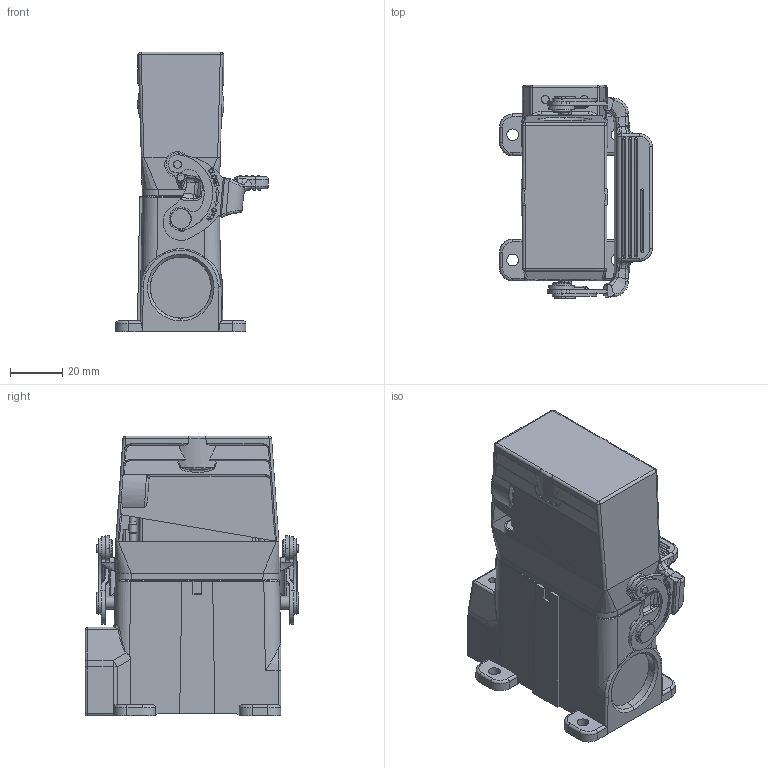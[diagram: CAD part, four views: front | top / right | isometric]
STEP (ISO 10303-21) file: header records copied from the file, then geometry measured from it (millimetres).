
FILE_DESCRIPTION(/* description */ (''),/* implementation_level */ '2;1');
FILE_NAME(/* name */ '09010003220.stp',/* time_stamp */ '2023-12-28T18:26:27+08:00',/* author */ (''),/* organization */ (''),/* preprocessor_version */ 'ST-DEVELOPER v16.7',/* originating_system */ 'SIEMENS PLM Software NX 12.0',/* authorisation */ '');
FILE_SCHEMA (('AUTOMOTIVE_DESIGN { 1 0 10303 214 3 1 1 1 }'));
Products named in the file (5): HA-010-M_stp; HA-010-F_stp; H10A-SGR-M20_step; H10A-TS-M20_step; 09010003220
Assembly tree (4 placements, depth 2):
  09010003220
    H10A-TS-M20_step
    H10A-SGR-M20_step
    HA-010-F_stp
    HA-010-M_stp
Bounding box: 58.61 x 81.95 x 107.3 mm (x, y, z)
Volume: 140812.6 mm3; surface area: 80282.8 mm2
Topology: 6 solids, 24 shells, 3291 faces, 8935 edges, 5826 vertices
Faces by surface type: plane 1783, cylinder 771, bspline 333, cone 171, extrusion 120, torus 74, sphere 39
Full cylindrical faces by diameter (mm): 0.4 x2, 1.95 x4, 2 x4, 2.5 x18, 2.85 x1, 3 x19, 3.05 x10, 3.2 x20, 4.02 x10, 5.3 x4, 5.314 x4, 5.5 x8
Entity records: 126897 total; most frequent: CARTESIAN_POINT 39089, ORIENTED_EDGE 16948, DIRECTION 14194, EDGE_CURVE 8474, VERTEX_POINT 5699, VECTOR 5084, LINE 4964, AXIS2_PLACEMENT_3D 4555
